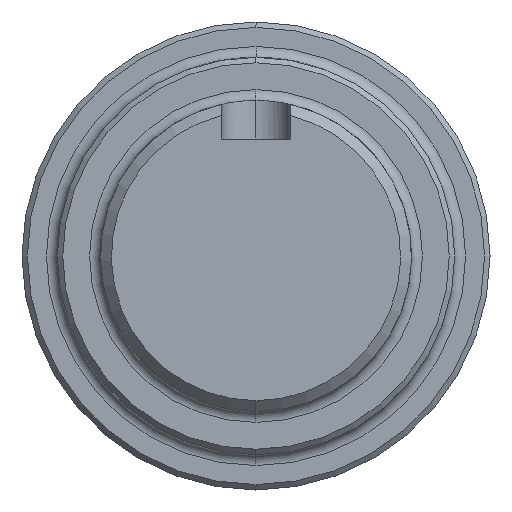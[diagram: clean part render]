
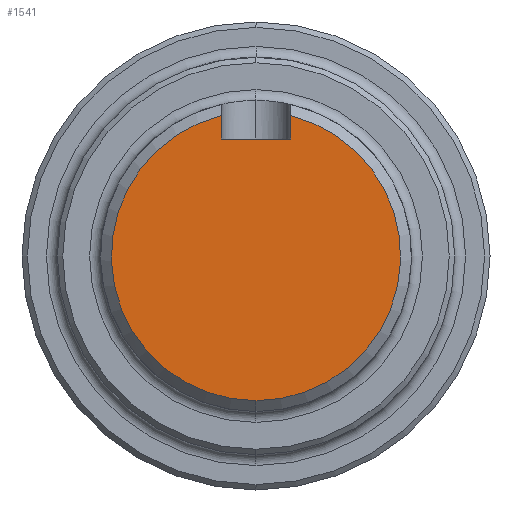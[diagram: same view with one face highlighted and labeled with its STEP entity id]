
A CAD part, left-side view. The second image highlights one B-rep face of the part: STEP entity #1541.
In plain terms, the highlighted planar face has unit normal (-1, 0, 0).
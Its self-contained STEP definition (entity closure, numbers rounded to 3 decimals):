
#266 = ORIENTED_EDGE ( 'NONE', *, *, #318, .F. ) ;
#267 = ORIENTED_EDGE ( 'NONE', *, *, #319, .T. ) ;
#268 = ORIENTED_EDGE ( 'NONE', *, *, #320, .T. ) ;
#269 = ORIENTED_EDGE ( 'NONE', *, *, #313, .T. ) ;
#270 = ORIENTED_EDGE ( 'NONE', *, *, #302, .T. ) ;
#302 = EDGE_CURVE ( 'NONE', #1525, #396, #1156, .T. ) ;
#313 = EDGE_CURVE ( 'NONE', #799, #1525, #1173, .T. ) ;
#318 = EDGE_CURVE ( 'NONE', #402, #396, #1175, .T. ) ;
#319 = EDGE_CURVE ( 'NONE', #402, #406, #1172, .T. ) ;
#320 = EDGE_CURVE ( 'NONE', #406, #799, #1180, .T. ) ;
#396 = VERTEX_POINT ( 'NONE', #1746 ) ;
#402 = VERTEX_POINT ( 'NONE', #1751 ) ;
#406 = VERTEX_POINT ( 'NONE', #1752 ) ;
#457 = AXIS2_PLACEMENT_3D ( 'NONE', #756, #760, #761 ) ;
#724 = CARTESIAN_POINT ( 'NONE',  ( -148.95, 0., -13.29 ) ) ;
#756 = CARTESIAN_POINT ( 'NONE',  ( -148.95, 0., 0. ) ) ;
#757 = PLANE ( 'NONE',  #457 ) ;
#760 = DIRECTION ( 'NONE',  ( -1., 0., 0. ) ) ;
#761 = DIRECTION ( 'NONE',  ( 0., 0., 1. ) ) ;
#799 = VERTEX_POINT ( 'NONE', #1769 ) ;
#801 = EDGE_LOOP ( 'NONE', ( #266, #267, #268, #269, #270 ) ) ;
#856 = FACE_OUTER_BOUND ( 'NONE', #801, .T. ) ;
#979 = AXIS2_PLACEMENT_3D ( 'NONE', #1036, #1037, #1038 ) ;
#983 = AXIS2_PLACEMENT_3D ( 'NONE', #1081, #1082, #1083 ) ;
#1036 = CARTESIAN_POINT ( 'NONE',  ( -148.95, 0., 0. ) ) ;
#1037 = DIRECTION ( 'NONE',  ( -1., 0., 0. ) ) ;
#1038 = DIRECTION ( 'NONE',  ( 0., 0., 1. ) ) ;
#1081 = CARTESIAN_POINT ( 'NONE',  ( -148.95, 0., 0. ) ) ;
#1082 = DIRECTION ( 'NONE',  ( -1., 0., 0. ) ) ;
#1083 = DIRECTION ( 'NONE',  ( 0., 0., 1. ) ) ;
#1093 = CARTESIAN_POINT ( 'NONE',  ( -148.95, -3.175, 10.75 ) ) ;
#1110 = DIRECTION ( 'NONE',  ( 0., 0., 1. ) ) ;
#1111 = CARTESIAN_POINT ( 'NONE',  ( -148.95, 0., 10.75 ) ) ;
#1112 = DIRECTION ( 'NONE',  ( 0., 1., 0. ) ) ;
#1113 = CARTESIAN_POINT ( 'NONE',  ( -148.95, 3.175, 10.75 ) ) ;
#1114 = DIRECTION ( 'NONE',  ( 0., 0., 1. ) ) ;
#1156 = CIRCLE ( 'NONE', #979, 13.29 ) ;
#1172 = LINE ( 'NONE', #1111, #1181 ) ;
#1173 = CIRCLE ( 'NONE', #983, 13.29 ) ;
#1175 = LINE ( 'NONE', #1093, #1178 ) ;
#1178 = VECTOR ( 'NONE', #1110, 1000. ) ;
#1180 = LINE ( 'NONE', #1113, #1183 ) ;
#1181 = VECTOR ( 'NONE', #1112, 1000. ) ;
#1183 = VECTOR ( 'NONE', #1114, 1000. ) ;
#1525 = VERTEX_POINT ( 'NONE', #724 ) ;
#1541 = ADVANCED_FACE ( 'NONE', ( #856 ), #757, .T. ) ;
#1746 = CARTESIAN_POINT ( 'NONE',  ( -148.95, -3.175, 12.905 ) ) ;
#1751 = CARTESIAN_POINT ( 'NONE',  ( -148.95, -3.175, 10.75 ) ) ;
#1752 = CARTESIAN_POINT ( 'NONE',  ( -148.95, 3.175, 10.75 ) ) ;
#1769 = CARTESIAN_POINT ( 'NONE',  ( -148.95, 3.175, 12.905 ) ) ;
